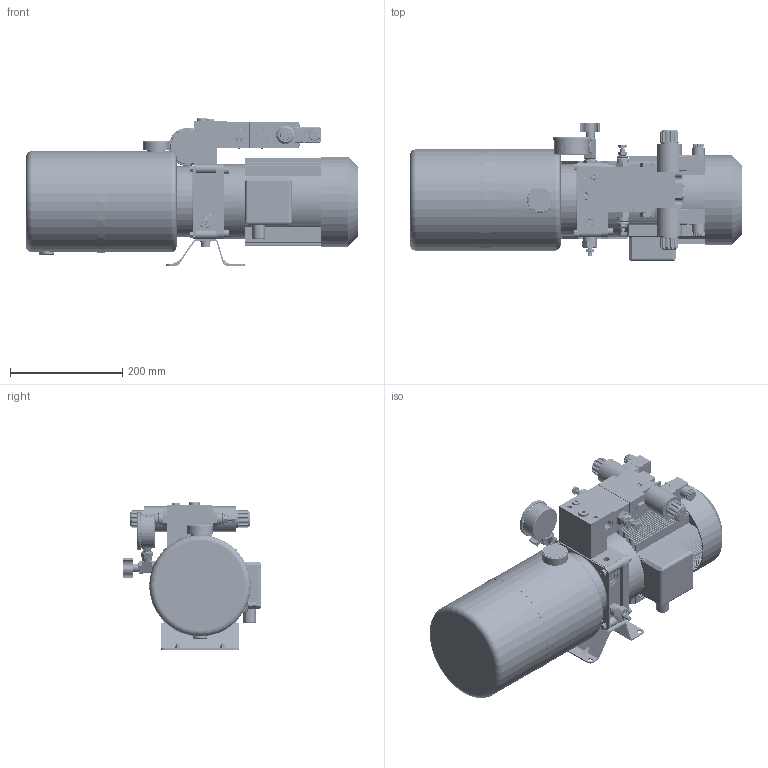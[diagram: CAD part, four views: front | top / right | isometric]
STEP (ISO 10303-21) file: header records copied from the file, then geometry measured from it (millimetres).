
FILE_DESCRIPTION(/* description */ (''),/* implementation_level */ '2;1');
FILE_NAME(/* name */ 'C:\Users\stolbov\Documents\Inventor\!Хлам\PPC-KV-SAM005-1.1-160-3.7.stp',/* time_stamp */ '2019-05-28T15:55:22+03:00',/* author */ ('stolbov'),/* organization */ (''),/* preprocessor_version */ 'ST-DEVELOPER v18',/* originating_system */ 'Autodesk Inventor 2020',/* authorisation */ '');
FILE_SCHEMA (('AUTOMOTIVE_DESIGN { 1 0 10303 214 3 1 1 }'));
Products named in the file (1): Деталь6
Bounding box: 591 x 245.82 x 261.7 mm (x, y, z)
Volume: 6378921.5 mm3; surface area: 1530272.4 mm2
Topology: 62 solids, 94 shells, 6251 faces, 16694 edges, 11087 vertices
Faces by surface type: plane 3154, cylinder 2305, cone 360, torus 229, bspline 177, sphere 26
Full cylindrical faces by diameter (mm): 0.2 x1, 1.7 x4, 2.459 x2, 2.52 x1, 2.6 x2, 3 x6, 3.5 x3, 4 x13, 4.134 x8, 4.48 x2, 4.917 x36, 5 x4, 5.2 x1, 5.5 x12, 6 x9, 6.025 x2, 6.3 x2, 6.42 x2, 6.5 x4, 6.647 x22, 7 x5, 7.5 x11, 8 x31, 8.2 x2, 8.3 x1, 8.376 x4, 8.5 x2, 8.566 x1, 8.701 x1, 9 x15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
Entity records: 235883 total; most frequent: CARTESIAN_POINT 69215, DIRECTION 34478, ORIENTED_EDGE 33296, EDGE_CURVE 16648, AXIS2_PLACEMENT_3D 12730, VERTEX_POINT 11087, LINE 9018, VECTOR 9018
